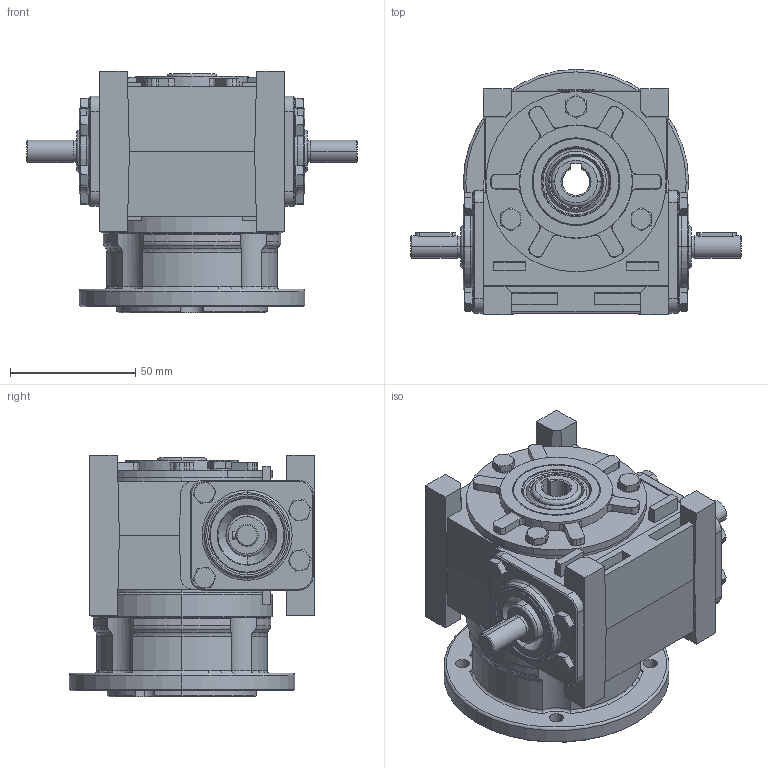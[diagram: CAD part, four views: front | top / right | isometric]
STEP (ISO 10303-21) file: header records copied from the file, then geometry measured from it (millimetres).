
FILE_DESCRIPTION (( 'STEP AP203' ), '1' );
FILE_NAME ('MRA-02_WBS2_K90_3D.STEP', '2020-04-30T09:34:12', ( '' ), ( '' ), 'SwSTEP 2.0', 'SolidWorks 2013', '' );
FILE_SCHEMA (( 'CONFIG_CONTROL_DESIGN' ));
Length unit declared in the file: millimetre
Products named in the file (14): socket head cap screw_iso_ISO 4762 M5 x 10 --- 10N; Ko³nierz 024 v2; Korpus 21_S.026.01.1.1.01; socket head cap screw_iso_ISO 4762 M5 x 25 --- 25N; Œlimak RA02_MRA.002.03.3.01; Pokrywa 026 v2_MR.026.02.0.12; Œlimacznica 27; Simmering 17x30x7; Pokrywa 22; Wpust 3x3; Simmering 20x35x7 AO; MRA-02_WBS2_K90_3D; hex screw gradeab_iso_ISO 4017 - M5 x 10-N; Pokrywa 023 v2
Assembly tree (31 placements, depth 2):
  MRA-02_WBS2_K90_3D
    Korpus 21_S.026.01.1.1.01
    Œlimak RA02_MRA.002.03.3.01
    Œlimacznica 27
    Pokrywa 22
    Simmering 20x35x7 AO  x2
    hex screw gradeab_iso_ISO 4017 - M5 x 10-N  x11
    Pokrywa 023 v2
    socket head cap screw_iso_ISO 4762 M5 x 10 --- 10N  x3
    Ko³nierz 024 v2
    socket head cap screw_iso_ISO 4762 M5 x 25 --- 25N  x3
    Pokrywa 026 v2_MR.026.02.0.12  x2
    Simmering 17x30x7  x2
    Wpust 3x3  x2
Bounding box: 132 x 98 x 96.5 mm (x, y, z)
Volume: 303595.4 mm3; surface area: 143725.7 mm2
Topology: 31 solids, 31 shells, 1330 faces, 3009 edges, 1791 vertices
Faces by surface type: plane 493, cylinder 362, cone 314, torus 97, bspline 64
Entity records: 27083 total; most frequent: CARTESIAN_POINT 6432, DIRECTION 4097, ORIENTED_EDGE 3760, EDGE_CURVE 1880, AXIS2_PLACEMENT_3D 1598, VERTEX_POINT 1159, EDGE_LOOP 931, LINE 901
